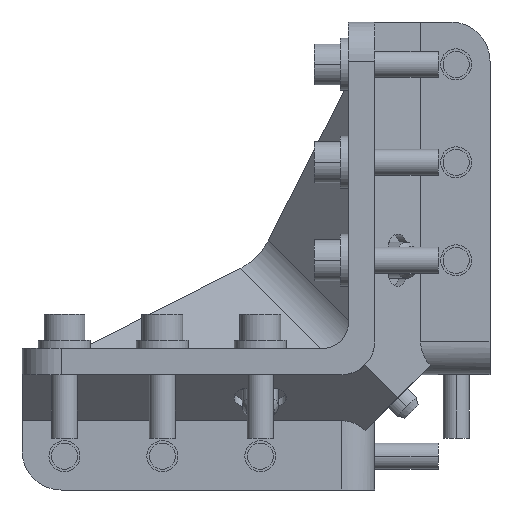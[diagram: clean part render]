
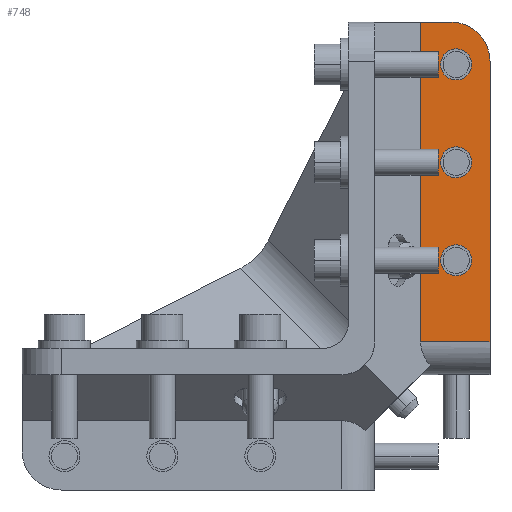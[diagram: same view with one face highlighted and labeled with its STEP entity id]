
A CAD part, front view. The second image highlights one B-rep face of the part: STEP entity #748.
In plain terms, the highlighted planar face has unit normal (0, -1, 0).
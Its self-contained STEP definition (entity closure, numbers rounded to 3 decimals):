
#748=ADVANCED_FACE('Pad.3',(#1709,#1710,#1711,#1712),#1713,.F.);
#1709=FACE_OUTER_BOUND('',#3091,.T.);
#1710=FACE_BOUND('',#3092,.T.);
#1711=FACE_BOUND('',#3093,.T.);
#1712=FACE_BOUND('',#3094,.T.);
#1713=PLANE('',#3095);
#3091=EDGE_LOOP('',(#4743,#4744,#4745,#4746,#4747));
#3092=EDGE_LOOP('',(#4748,#4749,#4750,#4751));
#3093=EDGE_LOOP('',(#4752,#4753,#4754,#4755));
#3094=EDGE_LOOP('',(#4756,#4757,#4758,#4759));
#3095=AXIS2_PLACEMENT_3D('',#4760,#4761,#4762);
#4743=ORIENTED_EDGE('',*,*,#7754,.F.);
#4744=ORIENTED_EDGE('',*,*,#7755,.F.);
#4745=ORIENTED_EDGE('',*,*,#7756,.F.);
#4746=ORIENTED_EDGE('',*,*,#7680,.F.);
#4747=ORIENTED_EDGE('',*,*,#7748,.T.);
#4748=ORIENTED_EDGE('',*,*,#7548,.T.);
#4749=ORIENTED_EDGE('',*,*,#7757,.T.);
#4750=ORIENTED_EDGE('',*,*,#7758,.T.);
#4751=ORIENTED_EDGE('',*,*,#7545,.T.);
#4752=ORIENTED_EDGE('',*,*,#7521,.T.);
#4753=ORIENTED_EDGE('',*,*,#7759,.T.);
#4754=ORIENTED_EDGE('',*,*,#7760,.T.);
#4755=ORIENTED_EDGE('',*,*,#7518,.T.);
#4756=ORIENTED_EDGE('',*,*,#7494,.T.);
#4757=ORIENTED_EDGE('',*,*,#7761,.T.);
#4758=ORIENTED_EDGE('',*,*,#7762,.T.);
#4759=ORIENTED_EDGE('',*,*,#7491,.T.);
#4760=CARTESIAN_POINT('',(0.0,25.0,10.85));
#4761=DIRECTION('',(0.0,1.0,0.0));
#4762=DIRECTION('',(0.0,0.0,-1.0));
#7491=EDGE_CURVE('',#8807,#8811,#8813,.T.);
#7494=EDGE_CURVE('',#8811,#8815,#8818,.T.);
#7518=EDGE_CURVE('',#8852,#8856,#8858,.T.);
#7521=EDGE_CURVE('',#8856,#8860,#8863,.T.);
#7545=EDGE_CURVE('',#8897,#8901,#8903,.T.);
#7548=EDGE_CURVE('',#8901,#8905,#8908,.T.);
#7680=EDGE_CURVE('',#9130,#9132,#9133,.T.);
#7748=EDGE_CURVE('',#9130,#9232,#9234,.T.);
#7754=EDGE_CURVE('',#9244,#9232,#9245,.T.);
#7755=EDGE_CURVE('',#9246,#9244,#9247,.T.);
#7756=EDGE_CURVE('',#9132,#9246,#9248,.T.);
#7757=EDGE_CURVE('',#8905,#9249,#9250,.T.);
#7758=EDGE_CURVE('',#9249,#8897,#9251,.T.);
#7759=EDGE_CURVE('',#8860,#9252,#9253,.T.);
#7760=EDGE_CURVE('',#9252,#8852,#9254,.T.);
#7761=EDGE_CURVE('',#8815,#9255,#9256,.T.);
#7762=EDGE_CURVE('',#9255,#8807,#9257,.T.);
#8807=VERTEX_POINT('',#10682);
#8811=VERTEX_POINT('',#10687);
#8813=CIRCLE('',#10690,4.75);
#8815=VERTEX_POINT('',#10692);
#8818=CIRCLE('',#10696,4.75);
#8852=VERTEX_POINT('',#10736);
#8856=VERTEX_POINT('',#10741);
#8858=CIRCLE('',#10744,4.75);
#8860=VERTEX_POINT('',#10746);
#8863=CIRCLE('',#10750,4.75);
#8897=VERTEX_POINT('',#10790);
#8901=VERTEX_POINT('',#10795);
#8903=CIRCLE('',#10798,4.75);
#8905=VERTEX_POINT('',#10800);
#8908=CIRCLE('',#10804,4.75);
#9130=VERTEX_POINT('',#11162);
#9132=VERTEX_POINT('',#11165);
#9133=LINE('',#11166,#11167);
#9232=VERTEX_POINT('',#11382);
#9234=LINE('',#11395,#11396);
#9244=VERTEX_POINT('',#11408);
#9245=LINE('',#11409,#11410);
#9246=VERTEX_POINT('',#11411);
#9247=LINE('',#11412,#11413);
#9248=CIRCLE('',#11414,12.0);
#9249=VERTEX_POINT('',#11415);
#9250=CIRCLE('',#11416,4.75);
#9251=CIRCLE('',#11417,4.75);
#9252=VERTEX_POINT('',#11418);
#9253=CIRCLE('',#11419,4.75);
#9254=CIRCLE('',#11420,4.75);
#9255=VERTEX_POINT('',#11421);
#9256=CIRCLE('',#11422,4.75);
#9257=CIRCLE('',#11423,4.75);
#10682=CARTESIAN_POINT('',(4.75,25.0,60.0));
#10687=CARTESIAN_POINT('',(-4.169,25.0,57.723));
#10690=AXIS2_PLACEMENT_3D('',#13197,#13198,#13199);
#10692=CARTESIAN_POINT('',(-4.75,25.0,60.0));
#10696=AXIS2_PLACEMENT_3D('',#13201,#13202,#13203);
#10736=CARTESIAN_POINT('',(4.75,25.0,90.0));
#10741=CARTESIAN_POINT('',(-4.169,25.0,87.723));
#10744=AXIS2_PLACEMENT_3D('',#13242,#13243,#13244);
#10746=CARTESIAN_POINT('',(-4.75,25.0,90.0));
#10750=AXIS2_PLACEMENT_3D('',#13246,#13247,#13248);
#10790=CARTESIAN_POINT('',(4.75,25.0,120.0));
#10795=CARTESIAN_POINT('',(-4.169,25.0,117.723));
#10798=AXIS2_PLACEMENT_3D('',#13287,#13288,#13289);
#10800=CARTESIAN_POINT('',(-4.75,25.0,120.0));
#10804=AXIS2_PLACEMENT_3D('',#13291,#13292,#13293);
#11162=CARTESIAN_POINT('',(-10.85,25.0,133.0));
#11165=CARTESIAN_POINT('',(-1.645,25.0,133.0));
#11166=CARTESIAN_POINT('',(-6.247,25.0,133.0));
#11167=VECTOR('',#13472,1.0);
#11382=CARTESIAN_POINT('',(-10.85,25.0,35.0));
#11395=CARTESIAN_POINT('',(-10.85,25.0,84.0));
#11396=VECTOR('',#13544,1.0);
#11408=CARTESIAN_POINT('',(10.355,25.0,35.0));
#11409=CARTESIAN_POINT('',(-0.247,25.0,35.0));
#11410=VECTOR('',#13553,1.0);
#11411=CARTESIAN_POINT('',(10.355,25.0,121.0));
#11412=CARTESIAN_POINT('',(10.355,25.0,78.0));
#11413=VECTOR('',#13554,1.0);
#11414=AXIS2_PLACEMENT_3D('',#13555,#13556,#13557);
#11415=CARTESIAN_POINT('',(4.169,25.0,122.277));
#11416=AXIS2_PLACEMENT_3D('',#13558,#13559,#13560);
#11417=AXIS2_PLACEMENT_3D('',#13561,#13562,#13563);
#11418=CARTESIAN_POINT('',(4.169,25.0,92.277));
#11419=AXIS2_PLACEMENT_3D('',#13564,#13565,#13566);
#11420=AXIS2_PLACEMENT_3D('',#13567,#13568,#13569);
#11421=CARTESIAN_POINT('',(4.169,25.0,62.277));
#11422=AXIS2_PLACEMENT_3D('',#13570,#13571,#13572);
#11423=AXIS2_PLACEMENT_3D('',#13573,#13574,#13575);
#13197=CARTESIAN_POINT('',(0.,25.0,60.0));
#13198=DIRECTION('',(0.0,1.0,0.0));
#13199=DIRECTION('',(0.0,0.0,-1.0));
#13201=CARTESIAN_POINT('',(0.,25.0,60.0));
#13202=DIRECTION('',(0.0,1.0,0.0));
#13203=DIRECTION('',(0.0,0.0,-1.0));
#13242=CARTESIAN_POINT('',(0.,25.0,90.0));
#13243=DIRECTION('',(0.0,1.0,0.0));
#13244=DIRECTION('',(0.0,0.0,-1.0));
#13246=CARTESIAN_POINT('',(0.,25.0,90.0));
#13247=DIRECTION('',(0.0,1.0,0.0));
#13248=DIRECTION('',(0.0,0.0,-1.0));
#13287=CARTESIAN_POINT('',(0.,25.0,120.0));
#13288=DIRECTION('',(0.0,1.0,0.0));
#13289=DIRECTION('',(0.0,0.0,-1.0));
#13291=CARTESIAN_POINT('',(0.,25.0,120.0));
#13292=DIRECTION('',(0.0,1.0,0.0));
#13293=DIRECTION('',(0.0,0.0,-1.0));
#13472=DIRECTION('',(1.0,0.0,0.0));
#13544=DIRECTION('',(0.0,0.0,-1.0));
#13553=DIRECTION('',(-1.0,0.0,0.0));
#13554=DIRECTION('',(0.0,0.0,-1.0));
#13555=CARTESIAN_POINT('',(-1.645,25.0,121.0));
#13556=DIRECTION('',(0.0,1.0,0.0));
#13557=DIRECTION('',(0.0,0.0,-1.0));
#13558=CARTESIAN_POINT('',(0.,25.0,120.0));
#13559=DIRECTION('',(0.0,1.0,0.0));
#13560=DIRECTION('',(0.0,0.0,-1.0));
#13561=CARTESIAN_POINT('',(0.,25.0,120.0));
#13562=DIRECTION('',(0.0,1.0,0.0));
#13563=DIRECTION('',(0.0,0.0,-1.0));
#13564=CARTESIAN_POINT('',(0.,25.0,90.0));
#13565=DIRECTION('',(0.0,1.0,0.0));
#13566=DIRECTION('',(0.0,0.0,-1.0));
#13567=CARTESIAN_POINT('',(0.,25.0,90.0));
#13568=DIRECTION('',(0.0,1.0,0.0));
#13569=DIRECTION('',(0.0,0.0,-1.0));
#13570=CARTESIAN_POINT('',(0.,25.0,60.0));
#13571=DIRECTION('',(0.0,1.0,0.0));
#13572=DIRECTION('',(0.0,0.0,-1.0));
#13573=CARTESIAN_POINT('',(0.,25.0,60.0));
#13574=DIRECTION('',(0.0,1.0,0.0));
#13575=DIRECTION('',(0.0,0.0,-1.0));
